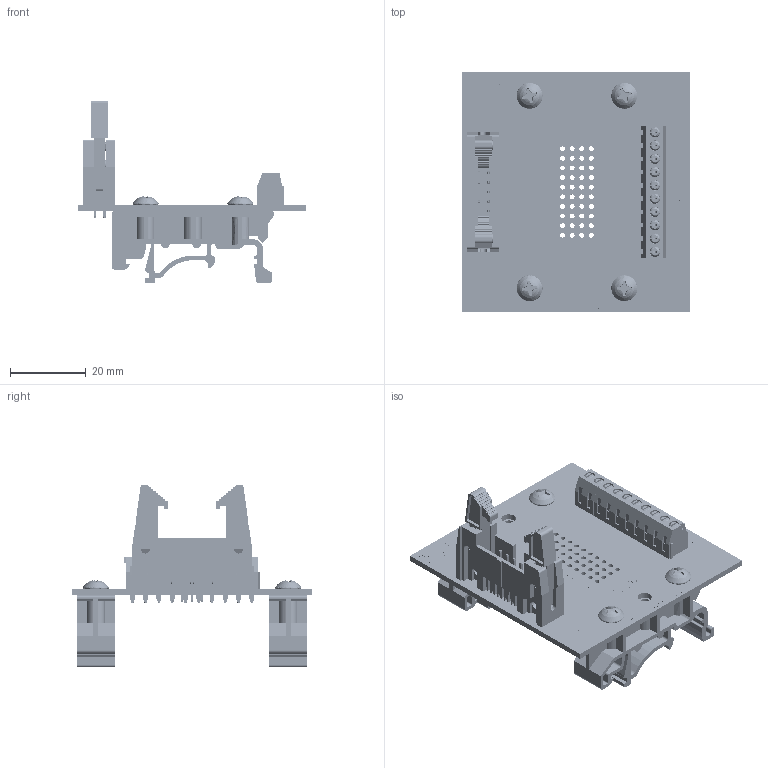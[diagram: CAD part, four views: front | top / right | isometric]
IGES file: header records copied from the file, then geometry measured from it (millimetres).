
Start section: SolidWorks IGES file using analytic representation for surfaces
Global section: file name: C:\Users\Jonny\Documents\Winford Engineering Jobs\OLD JOBS\BRK2X\BRK2X5\brk2x5-l-din_rev_a.igs; native system: SolidWorks 2017; preprocessor: SolidWorks 2017; author: Jonny; date: 180114.215134; units: inch
Bounding box: 60.45 x 63.5 x 48.17 mm (x, y, z)
Surface area: 24312.9 mm2 (no closed solid volume)
Topology: 0 solids, 0 shells, 3228 faces, 24613 edges, 24613 vertices
Faces by surface type: bspline 2395, revolution 833
